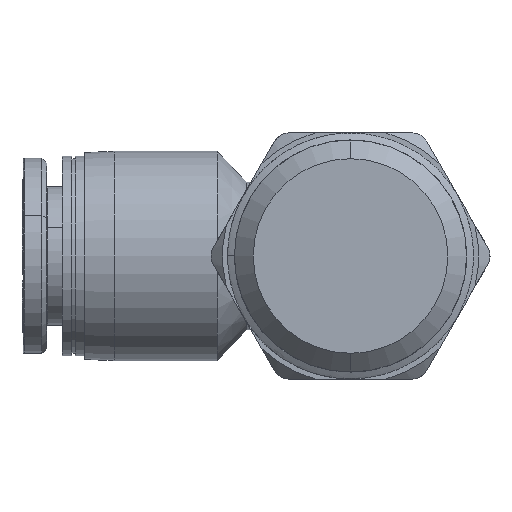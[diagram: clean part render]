
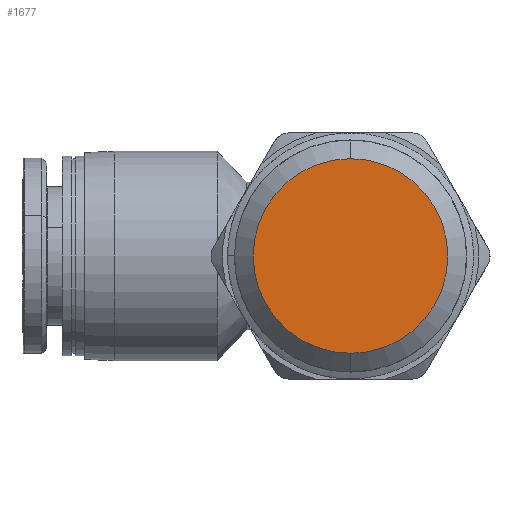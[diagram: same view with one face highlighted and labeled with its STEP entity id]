
A CAD part, front view. The second image highlights one B-rep face of the part: STEP entity #1677.
In plain terms, the highlighted planar face has unit normal (0, -1, 0).
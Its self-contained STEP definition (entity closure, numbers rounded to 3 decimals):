
#197 = AXIS2_PLACEMENT_3D ( 'NONE', #727, #3519, #757 ) ;
#268 = EDGE_LOOP ( 'NONE', ( #4650, #6228 ) ) ;
#597 = VERTEX_POINT ( 'NONE', #4296 ) ;
#727 = CARTESIAN_POINT ( 'NONE',  ( 28.458, -27.171, 0. ) ) ;
#757 = DIRECTION ( 'NONE',  ( 0., 0., 1. ) ) ;
#1662 = DIRECTION ( 'NONE',  ( 0., 1., 0. ) ) ;
#1677 = ADVANCED_FACE ( 'NONE', ( #5137 ), #7556, .F. ) ;
#1884 = AXIS2_PLACEMENT_3D ( 'NONE', #4525, #8523, #6463 ) ;
#2007 = CIRCLE ( 'NONE', #5580, 8.296 ) ;
#2666 = EDGE_CURVE ( 'NONE', #4628, #597, #2007, .T. ) ;
#2746 = EDGE_CURVE ( 'NONE', #597, #4628, #8541, .T. ) ;
#3519 = DIRECTION ( 'NONE',  ( 0., 1., 0. ) ) ;
#4296 = CARTESIAN_POINT ( 'NONE',  ( 20.162, -27.171, -8.296 ) ) ;
#4398 = DIRECTION ( 'NONE',  ( 0., 0., 1. ) ) ;
#4525 = CARTESIAN_POINT ( 'NONE',  ( 20.162, -27.171, 0. ) ) ;
#4628 = VERTEX_POINT ( 'NONE', #4943 ) ;
#4650 = ORIENTED_EDGE ( 'NONE', *, *, #2666, .F. ) ;
#4943 = CARTESIAN_POINT ( 'NONE',  ( 20.162, -27.171, 8.296 ) ) ;
#5055 = CARTESIAN_POINT ( 'NONE',  ( 20.162, -27.171, 0. ) ) ;
#5137 = FACE_OUTER_BOUND ( 'NONE', #268, .T. ) ;
#5580 = AXIS2_PLACEMENT_3D ( 'NONE', #5055, #1662, #4398 ) ;
#6228 = ORIENTED_EDGE ( 'NONE', *, *, #2746, .F. ) ;
#6463 = DIRECTION ( 'NONE',  ( 0., 0., 1. ) ) ;
#7556 = PLANE ( 'NONE',  #197 ) ;
#8523 = DIRECTION ( 'NONE',  ( 0., 1., 0. ) ) ;
#8541 = CIRCLE ( 'NONE', #1884, 8.296 ) ;
